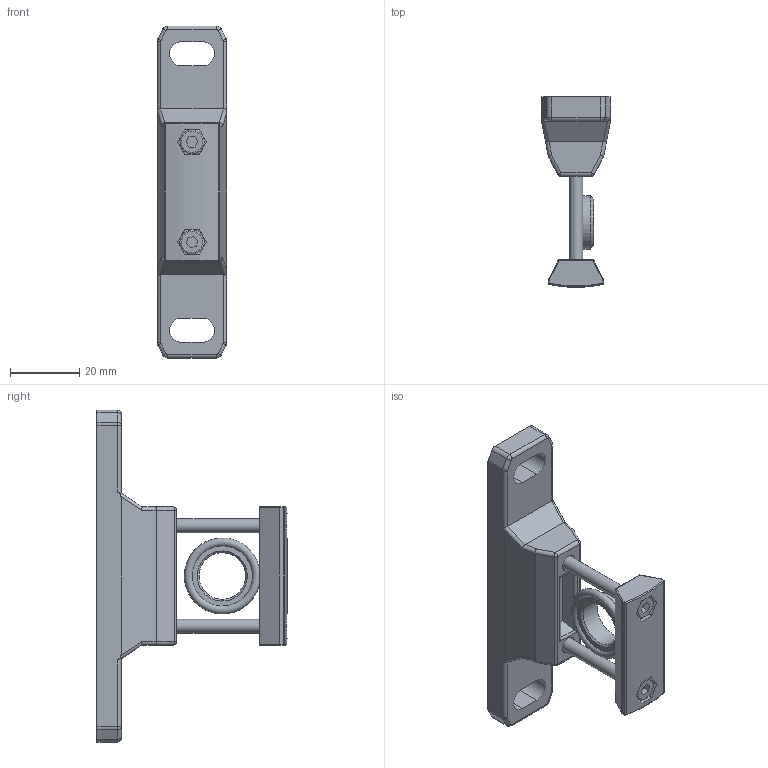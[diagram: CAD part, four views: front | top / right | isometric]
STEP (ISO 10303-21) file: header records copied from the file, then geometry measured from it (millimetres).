
FILE_DESCRIPTION( ( 'Unknown' ), '1' );
FILE_NAME( 'Y:/0-PLM共用區/支架組/220230050010001.stp', 'Unknown', ( 'Unknown' ), ( 'Unknown' ), 'PSStep 15.0.49', 'Unknown', ' ' );
FILE_SCHEMA( ( 'AUTOMOTIVE_DESIGN { 1 0 10303 214 1 1 1 1 }' ) );
Length unit declared in the file: millimetre
Products named in the file (5): Assem1; B00597; B00260; B00261; 3010104035300
Assembly tree (5 placements, depth 2):
  Assem1
    B00597
    B00260
    B00261
    3010104035300  x2
Bounding box: 20 x 55 x 96 mm (x, y, z)
Volume: 19954.7 mm3; surface area: 13179 mm2
Topology: 5 solids, 5 shells, 289 faces, 693 edges, 412 vertices
Faces by surface type: cylinder 129, plane 99, torus 23, sphere 16, bspline 16, cone 6
Full cylindrical faces by diameter (mm): 3.5 x2, 4 x2, 4.5 x2, 5 x2, 7 x2, 13.5 x1, 15.5 x1
Entity records: 10586 total; most frequent: CARTESIAN_POINT 1965, DIRECTION 1420, ORIENTED_EDGE 1248, EDGE_CURVE 624, AXIS2_PLACEMENT_3D 556, VERTEX_POINT 389, EDGE_LOOP 318, LINE 308
